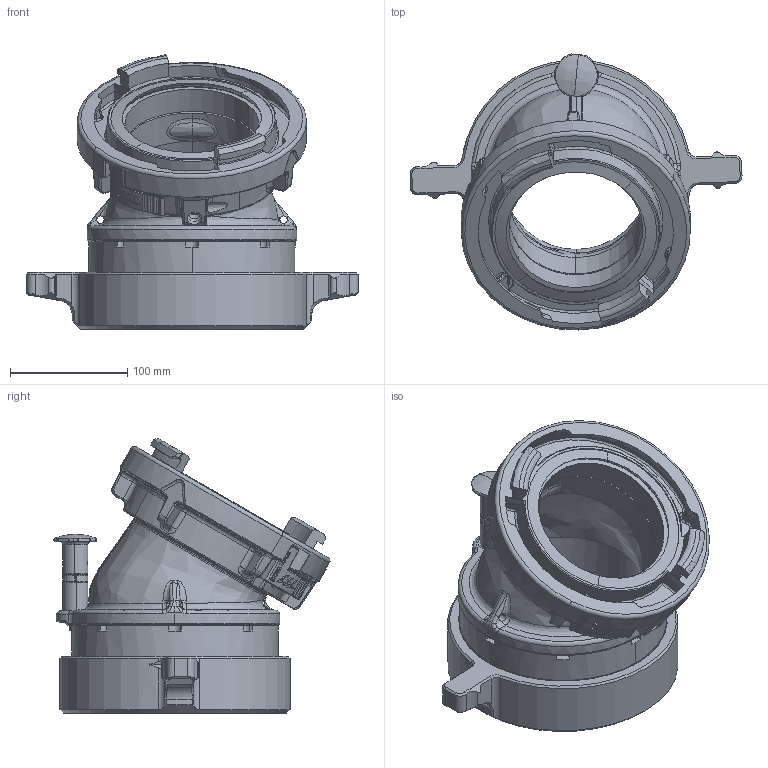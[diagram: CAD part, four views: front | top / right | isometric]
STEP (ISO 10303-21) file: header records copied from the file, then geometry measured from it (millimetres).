
FILE_DESCRIPTION (( 'STEP AP203' ), '1' );
FILE_NAME ('AJ1ST-NT.step', '2014-05-13T18:45:55', ( 'user' ), ( '' ), 'SwSTEP 2.0', 'SolidWorks 2012', '' );
FILE_SCHEMA (( 'CONFIG_CONTROL_DESIGN' ));
Length unit declared in the file: inch
Products named in the file (1): AJ1ST-NT
Bounding box: 283.69 x 235.9 x 234.53 mm (x, y, z)
Surface area: 356541.6 mm2 (no closed solid volume)
Topology: 0 solids, 28 shells, 1112 faces, 3871 edges, 2653 vertices
Faces by surface type: bspline 323, plane 290, cylinder 232, torus 139, cone 108, sphere 20
Entity records: 66687 total; most frequent: CARTESIAN_POINT 37887, ORIENTED_EDGE 6283, DIRECTION 4869, EDGE_CURVE 3865, VERTEX_POINT 2653, AXIS2_PLACEMENT_3D 1777, VECTOR 1315, LINE 1315
